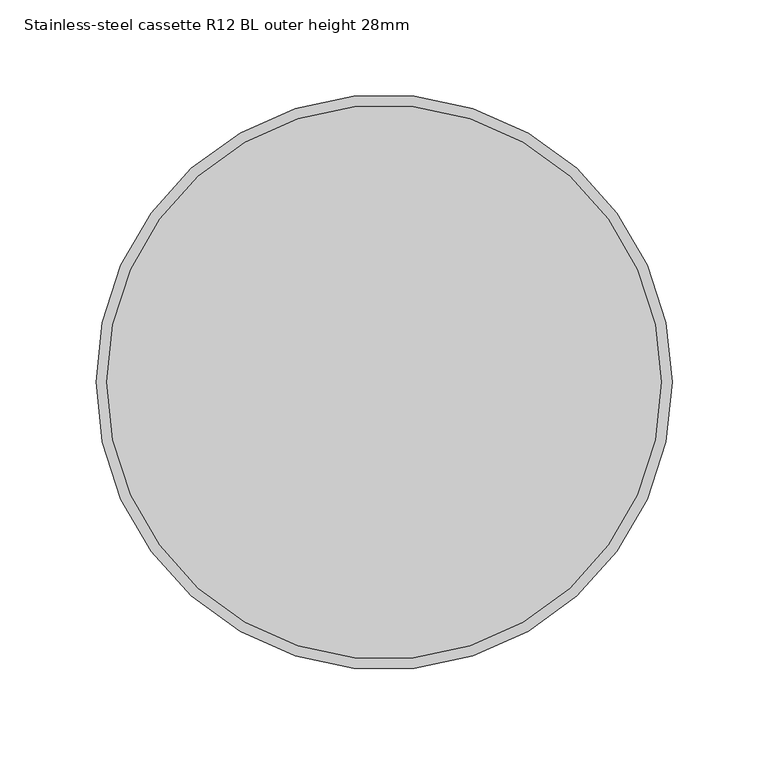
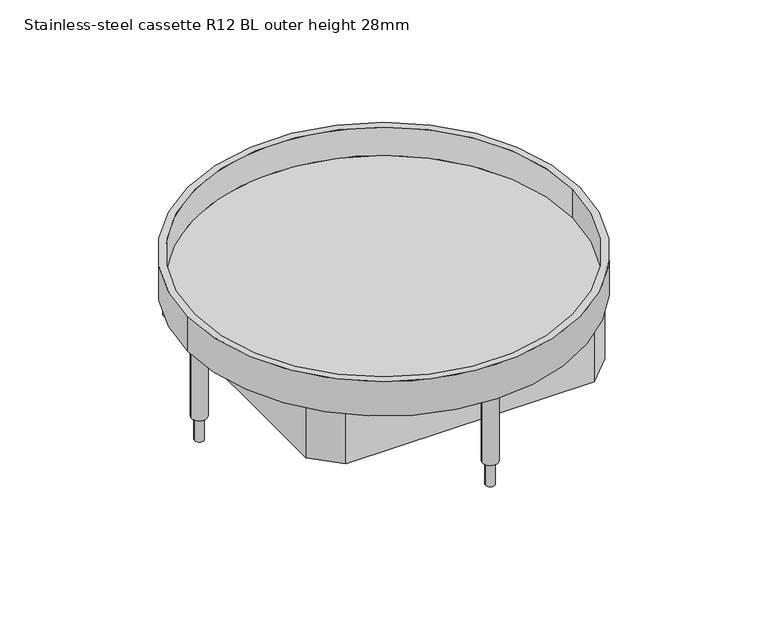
"""IFC4 building model written with IfcOpenShell, lengths in millimetres: proxy geometry, Electrical_Installation_Hager_VE-EE_EKR-Height-adjustable-stainless-steel-cassette-blank-round-for-damp-cleaned-floors : Stainless-steel cassette R12 BL outer height 28mm."""

from ifc_helpers import new_model, si_unit, point, frame, frame_2d, origin, place, context, project, spatial, polyline, circle_curve, trimmed, segment, composite_curve, outline, extrude, source, transform, mapped, element, save
from ifc_brep_helpers import plane_surface, cylinder_surface, revolved_surface, advanced_brep


def stainless_steel_cassette_r12_bl_outer_height_28mm_3aa149c4(model_context):
    return source(origin(), model_context, "Body", "SolidModel", [
        extrude(outline(composite_curve([segment(trimmed(circle_curve(frame_2d((-141.3, 0.0)), 3.5), [point((-144.8, 0.0))], [point((-137.8, 0.0))], False, "CARTESIAN"), True, "CONTINUOUS"), segment(trimmed(circle_curve(frame_2d((-141.3, 0.0)), 3.5), [point((-137.8, 0.0))], [point((-144.8, 0.0))], False, "CARTESIAN"), True, "CONTINUOUS")], self_intersect=False)), frame((0.0, 0.0, -100.0), z_axis=(0.0, 0.0, 1.0), x_axis=(1.0, 0.0, 0.0)), (0.0, 0.0, 1.0), 74.011943),
        extrude(outline(composite_curve([segment(trimmed(circle_curve(frame_2d((0.0, 141.3)), 3.5), [point((-3.5, 141.3))], [point((3.5, 141.3))], False, "CARTESIAN"), True, "CONTINUOUS"), segment(trimmed(circle_curve(frame_2d((0.0, 141.3)), 3.5), [point((3.5, 141.3))], [point((-3.5, 141.3))], False, "CARTESIAN"), True, "CONTINUOUS")], self_intersect=False)), frame((0.0, 0.0, -100.0), z_axis=(0.0, 0.0, 1.0), x_axis=(1.0, 0.0, 0.0)), (0.0, 0.0, 1.0), 74.011943),
        extrude(outline(composite_curve([segment(trimmed(circle_curve(frame_2d((141.3, 0.0)), 3.548869), [point((137.751131, 0.0))], [point((144.848869, 0.0))], False, "CARTESIAN"), True, "CONTINUOUS"), segment(trimmed(circle_curve(frame_2d((141.3, 0.0)), 3.548869), [point((144.848869, 0.0))], [point((137.751131, 0.0))], False, "CARTESIAN"), True, "CONTINUOUS")], self_intersect=False)), frame((0.0, 0.0, -100.0), z_axis=(0.0, 0.0, 1.0), x_axis=(1.0, 0.0, 0.0)), (0.0, 0.0, 1.0), 74.011943),
        extrude(outline(composite_curve([segment(trimmed(circle_curve(frame_2d((0.0, -141.3)), 3.5), [point((-3.5, -141.3))], [point((3.5, -141.3))], False, "CARTESIAN"), True, "CONTINUOUS"), segment(trimmed(circle_curve(frame_2d((0.0, -141.3)), 3.5), [point((3.5, -141.3))], [point((-3.5, -141.3))], False, "CARTESIAN"), True, "CONTINUOUS")], self_intersect=False)), frame((0.0, 0.0, -100.0), z_axis=(0.0, 0.0, 1.0), x_axis=(1.0, 0.0, 0.0)), (0.0, 0.0, 1.0), 74.011943),
        advanced_brep(
        [(144.5, 0.0, -20.988057), (-144.5, 0.0, -20.988057), (-150.0, 0.0, -25.988057), (150.0, 0.0, -25.988057), (-150.0, 0.0, 2.011943), (150.0, 0.0, 2.011943), (-144.5, 0.0, 2.011943), (144.5, 0.0, 2.011943)],
        [
            (0, 1, circle_curve(frame((0.0, 0.0, -20.988057), z_axis=(0.0, 0.0, 1.0), x_axis=(1.0, 0.0, 0.0)), 144.5)),
            (1, 0, circle_curve(frame((0.0, 0.0, -20.988057), z_axis=(0.0, 0.0, 1.0), x_axis=(1.0, 0.0, 0.0)), 144.5)),
            (2, 3, circle_curve(frame((0.0, 0.0, -25.988057), z_axis=(0.0, 0.0, -1.0), x_axis=(1.0, 0.0, 0.0)), 150.0)),
            (3, 2, circle_curve(frame((0.0, 0.0, -25.988057), z_axis=(0.0, 0.0, -1.0), x_axis=(1.0, 0.0, 0.0)), 150.0)),
            (4, 5, circle_curve(frame((0.0, 0.0, 2.011943), z_axis=(0.0, 0.0, 1.0), x_axis=(1.0, 0.0, 0.0)), 150.0)),
            (5, 4, circle_curve(frame((0.0, 0.0, 2.011943), z_axis=(0.0, 0.0, 1.0), x_axis=(1.0, 0.0, 0.0)), 150.0)),
            (6, 7, circle_curve(frame((0.0, 0.0, 2.011943), z_axis=(0.0, 0.0, -1.0), x_axis=(1.0, 0.0, 0.0)), 144.5)),
            (7, 6, circle_curve(frame((0.0, 0.0, 2.011943), z_axis=(0.0, 0.0, -1.0), x_axis=(1.0, 0.0, 0.0)), 144.5)),
            (4, 2),
            (3, 5),
            (6, 1),
            (0, 7),
        ],
        [
            plane_surface(frame((144.5, 0.0, -20.988057), z_axis=(0.0, 0.0, 1.0), x_axis=(0.0, 1.0, 0.0))),
            plane_surface(frame((144.5, 0.0, -25.988057), z_axis=(0.0, 0.0, -1.0), x_axis=(0.0, -1.0, 0.0))),
            plane_surface(frame((150.0, 0.0, 2.011943), z_axis=(0.0, 0.0, 1.0), x_axis=(0.0, 1.0, 0.0))),
            cylinder_surface(frame((0.0, 0.0, -25.988057), z_axis=(0.0, 0.0, 1.0), x_axis=(1.0, 0.0, 0.0)), 150.0),
            revolved_surface(polyline([(144.5, 0.0, -20.988057), (144.5, 0.0, 2.011943)]), (0.0, 0.0, 0.0), (0.0, 0.0, -1.0)),
        ],
        [
            (0, [[1, 2]]),
            (1, [[3, 4]]),
            (2, [[5, 6], [7, 8]]),
            (3, [[-5, 9, -4, 10]]),
            (3, [[-6, -10, -3, -9]]),
            (4, [[-7, 11, -1, 12]]),
            (4, [[-8, -12, -2, -11]]),
        ],
    ),
        extrude(outline(polyline([(94.9818914, 114.5), (114.5, 94.9818914), (114.5, -94.9818914), (94.9818914, -114.5), (-94.9818914, -114.5), (-114.5, -94.9818914), (-114.5, 94.9818914), (-94.9818914, 114.5), (94.9818914, 114.5)]), holes=[polyline([(-111.5, 93.8602374), (-111.5, -93.8602374), (-93.8602374, -111.5), (93.8602374, -111.5), (111.5, -93.8602374), (111.5, 93.8602374), (93.8602374, 111.5), (-93.8602374, 111.5), (-111.5, 93.8602374)])]), frame((0.0, 0.0, -66.9283404), z_axis=(0.0, 0.0, 1.0), x_axis=(1.0, 0.0, 0.0)), (0.0, 0.0, 1.0), 40.9402834),
        extrude(outline(composite_curve([segment(trimmed(circle_curve(frame_2d((0.0, 141.3)), 5.9738904), [point((-5.9738904, 141.3))], [point((5.9738904, 141.3))], False, "CARTESIAN"), True, "CONTINUOUS"), segment(trimmed(circle_curve(frame_2d((0.0, 141.3)), 5.9738904), [point((5.9738904, 141.3))], [point((-5.9738904, 141.3))], False, "CARTESIAN"), True, "CONTINUOUS")], self_intersect=False)), frame((0.0, 0.0, -81.0371838), z_axis=(0.0, 0.0, 1.0), x_axis=(1.0, 0.0, 0.0)), (0.0, 0.0, 1.0), 55.0491267),
        extrude(outline(composite_curve([segment(trimmed(circle_curve(frame_2d((141.3, 0.0)), 6.0), [point((135.3, 0.0))], [point((147.3, 0.0))], False, "CARTESIAN"), True, "CONTINUOUS"), segment(trimmed(circle_curve(frame_2d((141.3, 0.0)), 6.0), [point((147.3, 0.0))], [point((135.3, 0.0))], False, "CARTESIAN"), True, "CONTINUOUS")], self_intersect=False)), frame((0.0, 0.0, -81.0371838), z_axis=(0.0, 0.0, 1.0), x_axis=(1.0, 0.0, 0.0)), (0.0, 0.0, 1.0), 55.0491267),
        extrude(outline(composite_curve([segment(trimmed(circle_curve(frame_2d((0.0, -141.3)), 6.0), [point((-6.0, -141.3))], [point((6.0, -141.3))], False, "CARTESIAN"), True, "CONTINUOUS"), segment(trimmed(circle_curve(frame_2d((0.0, -141.3)), 6.0), [point((6.0, -141.3))], [point((-6.0, -141.3))], False, "CARTESIAN"), True, "CONTINUOUS")], self_intersect=False)), frame((0.0, 0.0, -81.0371838), z_axis=(0.0, 0.0, 1.0), x_axis=(1.0, 0.0, 0.0)), (0.0, 0.0, 1.0), 55.0491267),
        extrude(outline(composite_curve([segment(trimmed(circle_curve(frame_2d((-141.3, 0.0)), 6.0), [point((-147.3, 0.0))], [point((-135.3, 0.0))], False, "CARTESIAN"), True, "CONTINUOUS"), segment(trimmed(circle_curve(frame_2d((-141.3, 0.0)), 6.0), [point((-135.3, 0.0))], [point((-147.3, 0.0))], False, "CARTESIAN"), True, "CONTINUOUS")], self_intersect=False)), frame((0.0, 0.0, -81.0371838), z_axis=(0.0, 0.0, 1.0), x_axis=(1.0, 0.0, 0.0)), (0.0, 0.0, 1.0), 55.0491267),
    ])


if __name__ == "__main__":
    model = new_model("IFC4")
    model_context = context("Model", 3, world=origin())
    ifc_project = project(units=[si_unit("LENGTHUNIT", "METRE", prefix="MILLI")], contexts=[model_context])
    site = spatial("IfcSite", under=ifc_project)
    building = spatial("IfcBuilding", under=site)
    placement = place(None, origin())
    stainless_steel_cassette_r12_bl_outer_height_28mm_shape = stainless_steel_cassette_r12_bl_outer_height_28mm_3aa149c4(model_context)
    element("IfcBuildingElementProxy", 1, Name="Electrical_Installation_Hager_VE-EE_EKR-Height-adjustable-stainless-steel-cassette-blank-round-for-damp-cleaned-floors : Stainless-steel cassette R12 BL outer height 28mm", ObjectType="Electrical_Installation_Hager_VE-EE_EKR-Height-adjustable-stainless-steel-cassette-blank-round-for-damp-cleaned-floors : Stainless-steel cassette R12 BL outer height 28mm", at=placement, inside=building, context=model_context, shape_type="MappedRepresentation", body=[
        mapped(stainless_steel_cassette_r12_bl_outer_height_28mm_shape, transform((0.0, 0.0, 0.0), x_axis=(1.0, 0.0, 0.0), y_axis=(0.0, 1.0, 0.0), z_axis=(0.0, 0.0, 1.0))),
    ])
    save(model, "model.ifc")
